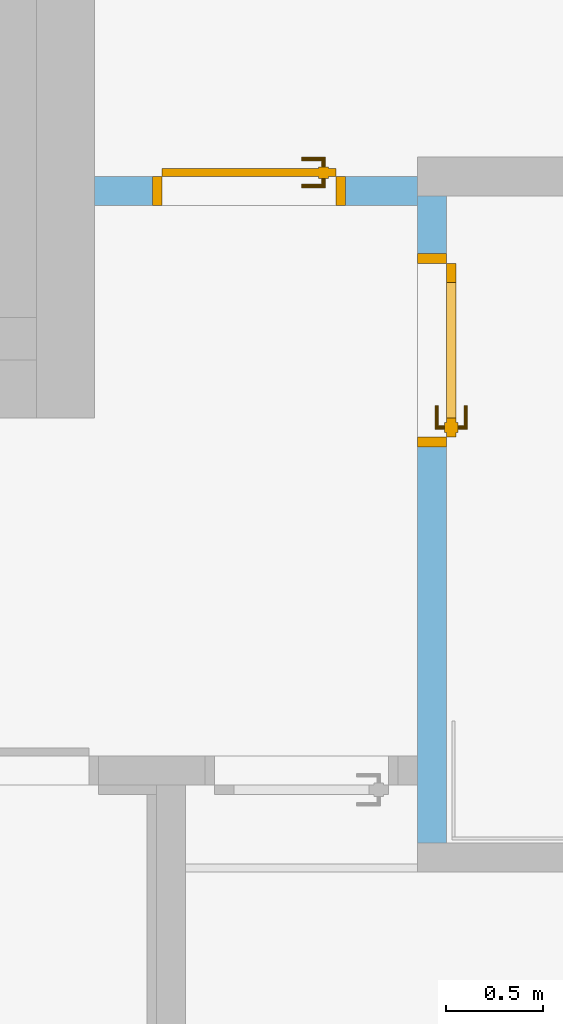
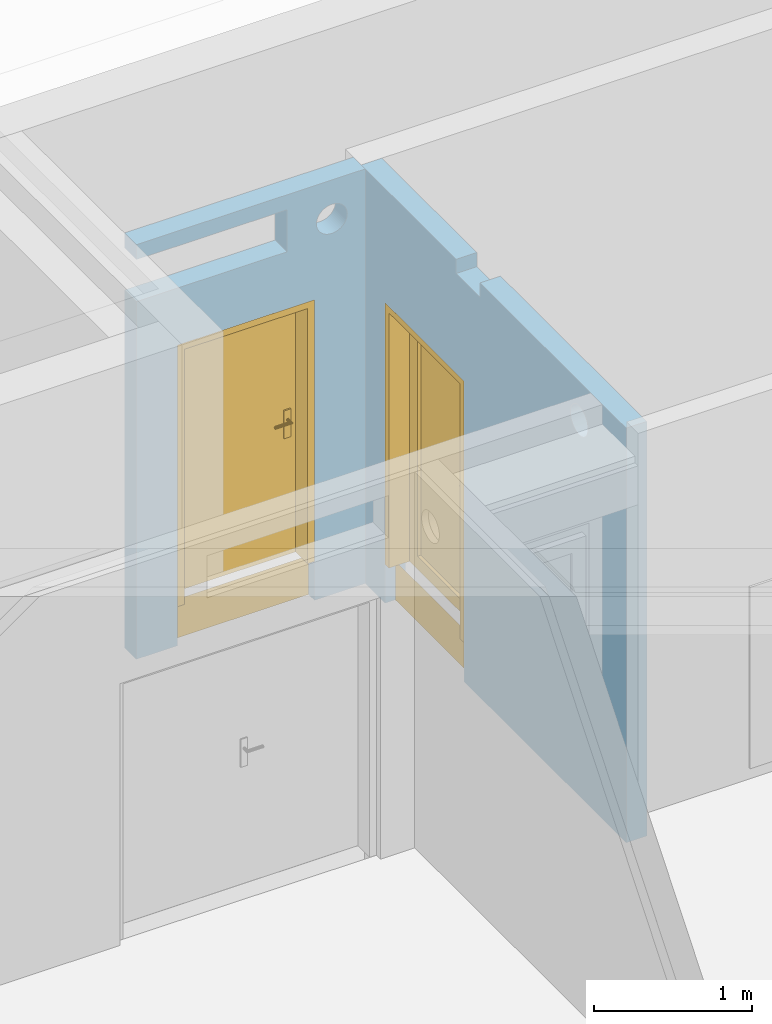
# One storey, part 73 of 84: 2 doors, 6 openings, plus 2 elements that do not belong to this part.
"""IFC4 building model written with IfcOpenShell, lengths in metres."""

from ifc_helpers import new_model, entity, si_unit, converted_unit, derived_unit, frame, frame_2d, origin, origin_with_axes, place, context, subcontext, project, spatial, polyline, rectangle, outline, extrude, closed_shell, open_shell, surface_model, source, transform, mapped, material, layer, layer_set, layer_usage, type_object, element, fill, save


model = new_model("IFC4")

# Units and contexts
model_context = context("Model", 3, precision=1e-05, world=origin())
body_context = subcontext(model_context, "Body", "Model", "MODEL_VIEW")
ifc_project = project(units=[si_unit("LENGTHUNIT", "METRE"), si_unit("AREAUNIT", "SQUARE_METRE"), si_unit("VOLUMEUNIT", "CUBIC_METRE"), si_unit("MASSUNIT", "GRAM", prefix="KILO"), converted_unit("PLANEANGLEUNIT", "DEGREE", entity("IfcPlaneAngleMeasure", 0.0174532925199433), si_unit("PLANEANGLEUNIT", "RADIAN"), dimensions=[0, 0, 0, 0, 0, 0, 0]), derived_unit("THERMALTRANSMITTANCEUNIT", [(si_unit("POWERUNIT", "WATT"), 1), (si_unit("THERMODYNAMICTEMPERATUREUNIT", "KELVIN"), -1), (si_unit("LENGTHUNIT", "METRE"), -2)]), derived_unit("VOLUMETRICFLOWRATEUNIT", [(si_unit("LENGTHUNIT", "METRE"), 3), (converted_unit("TIMEUNIT", "hour", entity("IfcTimeMeasure", 3600.0), si_unit("TIMEUNIT", "SECOND"), dimensions=[0, 0, 1, 0, 0, 0, 0]), -1), (si_unit("LENGTHUNIT", "METRE"), -1)])], contexts=[model_context])

# Site, building, storey
site_placement = place(None, origin())
site = spatial("IfcSite", under=ifc_project, at=site_placement, Name="3. ASŘ", CompositionType="ELEMENT")
building_placement = place(site_placement, origin())
building = spatial("IfcBuilding", under=site, at=building_placement, Name="Pavilon C", CompositionType="ELEMENT")
storey_placement = place(building_placement, frame((0.0, 0.0, -3.3)))
storey = spatial("IfcBuildingStorey", under=building, at=storey_placement, Name="Půdorys 1.PP", CompositionType="ELEMENT", Elevation=-3.3)

# Wall, openings, door
ifc_material_1 = material(Name="SDK - 1 KCE + DVOJITÉ OPLÁŠTĚNÍ")
ifc_layer_1 = layer(ifc_material_1, 0.15)
ifc_layer_set_1 = layer_set([ifc_layer_1])
ifc_layer_usage_1 = layer_usage(ifc_layer_set_1, "AXIS2", "POSITIVE", 0.0)
wall_1_placement = place(storey_placement, frame((58.5, 12.55, -0.3), z_axis=(0.0, 0.0, 1.0), x_axis=(0.0, 1.0, 0.0)))
wall_1 = element("IfcWall", 1, at=wall_1_placement, inside=storey, material=ifc_layer_usage_1, Name="SDK - 1 KCE + DVOJITÉ OPLÁŠTĚNÍ", context=body_context, shape_type="SweptSolid", body=[
    extrude(rectangle(XDim=3.35, YDim=0.15, at=frame_2d((1.675, 0.075), x_axis=(1.0, 0.0))), origin_with_axes(), (0.0, 0.0, 1.0), 3.2),
])
opening_1_placement = place(wall_1_placement, frame((2.05, 0.0, 0.0), z_axis=(0.0, 1.0, 0.0), x_axis=(0.0, 0.0, 1.0)))
opening_1 = element("IfcOpeningElement", 2, at=opening_1_placement, cuts=wall_1, Name="Dveřní otvor", ObjectType="Opening", context=body_context, shape_type="SweptSolid", body=[
    extrude(outline(polyline([(0.0, 1.0), (2.32, 1.0), (2.32, 0.0), (0.0, 0.0), (0.0, 1.0)])), origin_with_axes(), (0.0, 0.0, 1.0), 0.15),
])
opening_2_placement = place(wall_1_placement, frame((0.707526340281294, 0.15, 2.7875), z_axis=(0.0, -1.0, 0.0), x_axis=(0.0, 0.0, 1.0)))
element("IfcOpeningElement", 3, at=opening_2_placement, cuts=wall_1, Name="VZT", ObjectType="Opening", context=body_context, shape_type="SweptSolid", body=[
    extrude(outline(polyline([(0.112499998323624, 0.0), (0.100740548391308, 0.000616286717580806), (0.0891099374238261, 0.00245839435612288), (0.0777355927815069, 0.00550614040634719), (0.0667421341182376, 0.00972613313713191), (0.0562500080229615, 0.0150721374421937), (0.0463741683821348, 0.0214855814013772), (0.0372228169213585, 0.0288961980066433), (0.0288962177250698, 0.0372227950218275), (0.0214855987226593, 0.0463741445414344), (0.015072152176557, 0.0562499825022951), (0.00972614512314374, 0.0667421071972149), (0.00550614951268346, 0.0777355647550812), (0.00245840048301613, 0.0891099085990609), (0.00061628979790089, 0.100740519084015), (0.0, 0.112499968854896), (0.000616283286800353, 0.124259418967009), (0.00245838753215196, 0.135890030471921), (0.00550613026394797, 0.147264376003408), (0.00972611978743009, 0.158257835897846), (0.0150721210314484, 0.1687499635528), (0.0214855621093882, 0.178625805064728), (0.0288961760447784, 0.187777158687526), (0.0372227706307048, 0.19610376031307), (0.0463741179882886, 0.203514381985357), (0.0562499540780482, 0.2099278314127), (0.0667420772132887, 0.215273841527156), (0.0777355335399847, 0.219493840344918), (0.0891098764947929, 0.222541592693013), (0.100740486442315, 0.224383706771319), (0.112499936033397, 0.225), (0.124259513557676, 0.224383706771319), (0.135890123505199, 0.222541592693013), (0.147264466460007, 0.219493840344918), (0.158257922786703, 0.215273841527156), (0.168750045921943, 0.2099278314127), (0.178625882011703, 0.203514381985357), (0.187777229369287, 0.19610376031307), (0.196103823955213, 0.187777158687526), (0.203514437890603, 0.178625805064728), (0.209927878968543, 0.1687499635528), (0.215273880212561, 0.158257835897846), (0.219493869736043, 0.147264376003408), (0.222541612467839, 0.135890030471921), (0.224383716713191, 0.124259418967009), (0.224999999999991, 0.112499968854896), (0.22438371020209, 0.100740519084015), (0.222541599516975, 0.0891099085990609), (0.219493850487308, 0.0777355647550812), (0.215273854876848, 0.0667421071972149), (0.209927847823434, 0.0562499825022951), (0.203514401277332, 0.0463741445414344), (0.196103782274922, 0.0372227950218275), (0.187777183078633, 0.0288961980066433), (0.178625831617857, 0.0214855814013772), (0.16874999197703, 0.0150721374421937), (0.158257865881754, 0.00972613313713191), (0.147264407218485, 0.00550614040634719), (0.135890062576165, 0.00245839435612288), (0.124259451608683, 0.000616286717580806), (0.112499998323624, 0.0)])), origin_with_axes(), (0.0, 0.0, 1.0), 0.15),
])
opening_3_placement = place(wall_1_placement, frame((2.15000000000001, 0.15, 3.09), z_axis=(0.0, -1.0, 0.0), x_axis=(0.0, 0.0, 1.0)))
element("IfcOpeningElement", 4, at=opening_3_placement, cuts=wall_1, Name="ZTI", ObjectType="Opening", context=body_context, shape_type="SweptSolid", body=[
    extrude(outline(polyline([(0.0, 0.3), (0.11, 0.3), (0.11, 0.0), (0.0, 0.0), (0.0, 0.3)])), origin_with_axes(), (0.0, 0.0, 1.0), 0.15),
])
door_type_1 = type_object("IfcDoorType", Name="I.D039", OperationType="NOTDEFINED", ParameterTakesPrecedence=False, PredefinedType="DOOR")
shared_shape_1 = source(origin_with_axes(), body_context, "Body", "SurfaceModel", [
    surface_model("IfcShellBasedSurfaceModel", [(0.0, 0.0749999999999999, 0.0), (1.0, 0.0749999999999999, 0.0), (1.0, 0.075, 0.3), (0.0, 0.075, 0.3)], [open_shell([[[0, 1, 2, 3]]], orient=[[False]])]),
    surface_model("IfcShellBasedSurfaceModel", [(0.0, 0.15, 2.32), (0.0, 0.15, 0.301), (0.05, 0.15, 0.301), (0.05, 0.15, 2.32), (0.0, 0.0, 0.301), (0.0, 2.55795384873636e-16, 2.32), (0.05, 2.55795384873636e-16, 2.32), (0.05, 0.0, 0.301)], [closed_shell([[[0, 1, 2, 3]], [[4, 5, 6, 7]], [[1, 0, 5, 4]], [[2, 1, 4, 7]], [[3, 2, 7, 6]], [[0, 3, 6, 5]]], orient=[[False], [False], [False], [False], [False], [False]])]),
    surface_model("IfcShellBasedSurfaceModel", [(0.95, 0.15, 2.32), (0.95, 0.15, 0.301), (1.0, 0.15, 0.301), (1.0, 0.15, 2.32), (0.95, 0.0, 0.301), (0.95, 2.55795384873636e-16, 2.32), (1.0, 2.55795384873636e-16, 2.32), (1.0, 0.0, 0.301)], [closed_shell([[[0, 1, 2, 3]], [[4, 5, 6, 7]], [[1, 0, 5, 4]], [[2, 1, 4, 7]], [[3, 2, 7, 6]], [[0, 3, 6, 5]]], orient=[[False], [False], [False], [False], [False], [False]])]),
    surface_model("IfcShellBasedSurfaceModel", [(0.05, 0.15, 2.32), (0.05, 0.15, 2.27), (0.95, 0.15, 2.27), (0.95, 0.15, 2.32), (0.05, 2.27373675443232e-16, 2.27), (0.05, 2.27373675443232e-16, 2.32), (0.95, 2.27373675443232e-16, 2.32), (0.95, 2.27373675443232e-16, 2.27)], [closed_shell([[[0, 1, 2, 3]], [[4, 5, 6, 7]], [[1, 0, 5, 4]], [[2, 1, 4, 7]], [[3, 2, 7, 6]], [[0, 3, 6, 5]]], orient=[[False], [False], [False], [False], [False], [False]])]),
    surface_model("IfcShellBasedSurfaceModel", [(0.05, 0.2, 2.27), (0.05, 0.2, 0.301), (0.15, 0.2, 0.301), (0.15, 0.2, 2.27), (0.05, 0.15, 0.301), (0.05, 0.15, 2.27), (0.15, 0.15, 2.27), (0.15, 0.15, 0.301)], [closed_shell([[[0, 1, 2, 3]], [[4, 5, 6, 7]], [[1, 0, 5, 4]], [[2, 1, 4, 7]], [[3, 2, 7, 6]], [[0, 3, 6, 5]]], orient=[[False], [False], [False], [False], [False], [False]])]),
    surface_model("IfcShellBasedSurfaceModel", [(0.85, 0.2, 2.27), (0.85, 0.2, 0.301), (0.95, 0.2, 0.301), (0.95, 0.2, 2.27), (0.85, 0.15, 0.301), (0.85, 0.15, 2.27), (0.95, 0.15, 2.27), (0.95, 0.15, 0.301)], [closed_shell([[[0, 1, 2, 3]], [[4, 5, 6, 7]], [[1, 0, 5, 4]], [[2, 1, 4, 7]], [[3, 2, 7, 6]], [[0, 3, 6, 5]]], orient=[[False], [False], [False], [False], [False], [False]])]),
    surface_model("IfcShellBasedSurfaceModel", [(0.15, 0.2, 0.401), (0.15, 0.2, 0.301), (0.85, 0.2, 0.301), (0.85, 0.2, 0.401), (0.15, 0.15, 0.301), (0.15, 0.15, 0.401), (0.85, 0.15, 0.401), (0.85, 0.15, 0.301)], [closed_shell([[[0, 1, 2, 3]], [[4, 5, 6, 7]], [[1, 0, 5, 4]], [[2, 1, 4, 7]], [[3, 2, 7, 6]], [[0, 3, 6, 5]]], orient=[[False], [False], [False], [False], [False], [False]])]),
    surface_model("IfcShellBasedSurfaceModel", [(0.15, 0.2, 2.27), (0.15, 0.2, 2.17), (0.85, 0.2, 2.17), (0.85, 0.2, 2.27), (0.15, 0.15, 2.17), (0.15, 0.15, 2.27), (0.85, 0.15, 2.27), (0.85, 0.15, 2.17)], [closed_shell([[[0, 1, 2, 3]], [[4, 5, 6, 7]], [[1, 0, 5, 4]], [[2, 1, 4, 7]], [[3, 2, 7, 6]], [[0, 3, 6, 5]]], orient=[[False], [False], [False], [False], [False], [False]])]),
    surface_model("IfcShellBasedSurfaceModel", [(0.875, 0.15, 1.426), (0.875, 0.15, 1.211), (0.925, 0.15, 1.211), (0.925, 0.15, 1.426), (0.875, 0.14, 1.211), (0.875, 0.14, 1.426), (0.925, 0.14, 1.426), (0.925, 0.14, 1.211)], [closed_shell([[[0, 1, 2, 3]], [[4, 5, 6, 7]], [[1, 0, 5, 4]], [[2, 1, 4, 7]], [[3, 2, 7, 6]], [[0, 3, 6, 5]]], orient=[[False], [False], [False], [False], [False], [False]])]),
    surface_model("IfcShellBasedSurfaceModel", [(0.9, 0.14, 1.361), (0.895, 0.14, 1.35966025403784), (0.891339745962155, 0.14, 1.356), (0.89, 0.14, 1.351), (0.891339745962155, 0.14, 1.346), (0.895, 0.14, 1.34233974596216), (0.9, 0.14, 1.341), (0.905, 0.14, 1.34233974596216), (0.908660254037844, 0.14, 1.346), (0.91, 0.14, 1.351), (0.908660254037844, 0.14, 1.356), (0.905, 0.14, 1.35966025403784), (0.905, 0.0950000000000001, 1.35966025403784), (0.9, 0.1, 1.361), (0.908660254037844, 0.0913397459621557, 1.356), (0.91, 0.0900000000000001, 1.351), (0.908660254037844, 0.0913397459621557, 1.346), (0.905, 0.0950000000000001, 1.34233974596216), (0.9, 0.1, 1.341), (0.895, 0.105, 1.34233974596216), (0.891339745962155, 0.108660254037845, 1.346), (0.89, 0.11, 1.351), (0.891339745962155, 0.108660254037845, 1.356), (0.895, 0.105, 1.35966025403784), (0.785, 0.0950000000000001, 1.35966025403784), (0.785, 0.1, 1.361), (0.785, 0.0913397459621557, 1.356), (0.785, 0.0900000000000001, 1.351), (0.785, 0.0913397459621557, 1.346), (0.785, 0.0950000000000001, 1.34233974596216), (0.785, 0.1, 1.341), (0.785, 0.105, 1.34233974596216), (0.785, 0.108660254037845, 1.346), (0.785, 0.11, 1.351), (0.785, 0.108660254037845, 1.356), (0.785, 0.105, 1.35966025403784)], [open_shell([[[0, 1, 2, 3, 4, 5, 6, 7, 8, 9, 10, 11]], [[0, 11, 12, 13]], [[11, 10, 14, 12]], [[10, 9, 15, 14]], [[9, 8, 16, 15]], [[8, 7, 17, 16]], [[7, 6, 18, 17]], [[6, 5, 19, 18]], [[5, 4, 20, 19]], [[4, 3, 21, 20]], [[3, 2, 22, 21]], [[2, 1, 23, 22]], [[1, 0, 13, 23]], [[13, 12, 24, 25]], [[12, 14, 26, 24]], [[14, 15, 27, 26]], [[15, 16, 28, 27]], [[16, 17, 29, 28]], [[17, 18, 30, 29]], [[18, 19, 31, 30]], [[19, 20, 32, 31]], [[20, 21, 33, 32]], [[21, 22, 34, 33]], [[22, 23, 35, 34]], [[23, 13, 25, 35]]], orient=[[False], [False], [False], [False], [False], [False], [False], [False], [False], [False], [False], [False], [False], [False], [False], [False], [False], [False], [False], [False], [False], [False], [False], [False], [False]])]),
    surface_model("IfcShellBasedSurfaceModel", [(0.875, 0.2, 1.426), (0.925, 0.2, 1.426), (0.925, 0.2, 1.211), (0.875, 0.2, 1.211), (0.875, 0.21, 1.211), (0.925, 0.21, 1.211), (0.925, 0.21, 1.426), (0.875, 0.21, 1.426)], [closed_shell([[[0, 1, 2, 3]], [[4, 5, 6, 7]], [[3, 4, 7, 0]], [[2, 5, 4, 3]], [[1, 6, 5, 2]], [[0, 7, 6, 1]]], orient=[[False], [False], [False], [False], [False], [False]])]),
    surface_model("IfcShellBasedSurfaceModel", [(0.9, 0.21, 1.361), (0.905, 0.21, 1.35966025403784), (0.908660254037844, 0.21, 1.356), (0.91, 0.21, 1.351), (0.908660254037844, 0.21, 1.346), (0.905, 0.21, 1.34233974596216), (0.9, 0.21, 1.341), (0.895, 0.21, 1.34233974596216), (0.891339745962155, 0.21, 1.346), (0.89, 0.21, 1.351), (0.891339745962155, 0.21, 1.356), (0.895, 0.21, 1.35966025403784), (0.9, 0.25, 1.361), (0.905, 0.255, 1.35966025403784), (0.908660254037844, 0.258660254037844, 1.356), (0.91, 0.26, 1.351), (0.908660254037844, 0.258660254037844, 1.346), (0.905, 0.255, 1.34233974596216), (0.9, 0.25, 1.341), (0.895, 0.245, 1.34233974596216), (0.891339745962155, 0.241339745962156, 1.346), (0.89, 0.24, 1.351), (0.891339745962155, 0.241339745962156, 1.356), (0.895, 0.245, 1.35966025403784), (0.785, 0.25, 1.361), (0.785, 0.255, 1.35966025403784), (0.785, 0.258660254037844, 1.356), (0.785, 0.26, 1.351), (0.785, 0.258660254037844, 1.346), (0.785, 0.255, 1.34233974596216), (0.785, 0.25, 1.341), (0.785, 0.245, 1.34233974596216), (0.785, 0.241339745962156, 1.346), (0.785, 0.24, 1.351), (0.785, 0.241339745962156, 1.356), (0.785, 0.245, 1.35966025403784)], [open_shell([[[0, 1, 2, 3, 4, 5, 6, 7, 8, 9, 10, 11]], [[0, 12, 13, 1]], [[1, 13, 14, 2]], [[2, 14, 15, 3]], [[3, 15, 16, 4]], [[4, 16, 17, 5]], [[5, 17, 18, 6]], [[6, 18, 19, 7]], [[7, 19, 20, 8]], [[8, 20, 21, 9]], [[9, 21, 22, 10]], [[10, 22, 23, 11]], [[11, 23, 12, 0]], [[12, 24, 25, 13]], [[13, 25, 26, 14]], [[14, 26, 27, 15]], [[15, 27, 28, 16]], [[16, 28, 29, 17]], [[17, 29, 30, 18]], [[18, 30, 31, 19]], [[19, 31, 32, 20]], [[20, 32, 33, 21]], [[21, 33, 34, 22]], [[22, 34, 35, 23]], [[23, 35, 24, 12]]], orient=[[False], [False], [False], [False], [False], [False], [False], [False], [False], [False], [False], [False], [False], [False], [False], [False], [False], [False], [False], [False], [False], [False], [False], [False], [False]])]),
    surface_model("IfcShellBasedSurfaceModel", [(0.15, 0.175, 0.401), (0.85, 0.175, 0.401), (0.85, 0.175, 2.17), (0.15, 0.175, 2.17)], [open_shell([[[0, 1, 2, 3]]], orient=[[False]])]),
])
door_1_placement = place(opening_1_placement, frame((0.0, 0.999999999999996, 0.150000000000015), z_axis=(1.0, 0.0, 0.0), x_axis=(0.0, -1.0, 2.44929359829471e-16)))
door_1 = element("IfcDoor", 5, at=door_1_placement, inside=storey, type_object=door_type_1, Name="I.D039", OverallHeight=2.32, OverallWidth=1.0, context=body_context, shape_type="MappedRepresentation", body=[
    mapped(shared_shape_1, transform((0.0, 0.0, 0.0), x_axis=(1.0, 0.0, 0.0), y_axis=(0.0, 1.0, 0.0), z_axis=(0.0, 0.0, 1.0), scale=1.0)),
])
fill(opening_1, door_1)

ifc_material_2 = material(Name="SDK - 1 KCE + DVOJITÉ OPLÁŠTĚNÍ")
ifc_layer_2 = layer(ifc_material_2, 0.15)
ifc_layer_set_2 = layer_set([ifc_layer_2])
ifc_layer_usage_2 = layer_usage(ifc_layer_set_2, "AXIS2", "POSITIVE", 0.0)
wall_2_placement = place(storey_placement, frame((56.6788883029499, 15.85, -0.3)))
wall_2 = element("IfcWall", 6, at=wall_2_placement, inside=storey, material=ifc_layer_usage_2, Name="SDK - 1 KCE + DVOJITÉ OPLÁŠTĚNÍ", context=body_context, shape_type="SweptSolid", body=[
    extrude(rectangle(XDim=1.67111169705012, YDim=0.15, at=frame_2d((0.835555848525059, 0.075), x_axis=(1.0, 0.0))), origin_with_axes(), (0.0, 0.0, 1.0), 3.2),
])
opening_4_placement = place(wall_2_placement, frame((1.3, 0.15, 0.0), z_axis=(0.0, -1.0, 0.0), x_axis=(0.0, 0.0, 1.0)))
opening_4 = element("IfcOpeningElement", 7, at=opening_4_placement, cuts=wall_2, Name="Dveřní otvor", ObjectType="Opening", context=body_context, shape_type="SweptSolid", body=[
    extrude(outline(polyline([(0.0, 1.0), (2.32, 1.0), (2.32, 0.0), (0.0, 0.0), (0.0, 1.0)])), origin_with_axes(), (0.0, 0.0, 1.0), 0.15),
])
opening_5_placement = place(wall_2_placement, frame((1.53972447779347, 0.15, 2.7875), z_axis=(0.0, -1.0, 0.0), x_axis=(0.0, 0.0, 1.0)))
element("IfcOpeningElement", 8, at=opening_5_placement, cuts=wall_2, Name="VZT", ObjectType="Opening", context=body_context, shape_type="SweptSolid", body=[
    extrude(outline(polyline([(0.112499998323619, 0.225), (0.124259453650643, 0.2243837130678), (0.135890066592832, 0.222541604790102), (0.147264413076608, 0.219493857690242), (0.158257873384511, 0.21527386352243), (0.168750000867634, 0.209927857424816), (0.178625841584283, 0.203514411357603), (0.187777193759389, 0.196103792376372), (0.196103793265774, 0.187777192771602), (0.203514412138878, 0.178625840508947), (0.209927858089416, 0.168749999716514), (0.215273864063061, 0.158257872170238), (0.219493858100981, 0.147264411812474), (0.222541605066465, 0.13589006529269), (0.224383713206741, 0.124259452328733), (0.225, 0.112500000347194), (0.224383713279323, 0.100740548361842), (0.222541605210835, 0.0891099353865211), (0.219493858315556, 0.0777355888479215), (0.21527386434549, 0.0667421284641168), (0.209927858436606, 0.0562500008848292), (0.203514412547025, 0.0463741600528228), (0.196103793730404, 0.0372228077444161), (0.187777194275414, 0.0288962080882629), (0.178625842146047, 0.0214855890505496), (0.168750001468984, 0.0150721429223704), (0.158257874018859, 0.00972613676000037), (0.147264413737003, 0.00550614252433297), (0.135890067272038, 0.00245839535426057), (0.124259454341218, 0.000616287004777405), (0.11249999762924, 0.0), (0.100740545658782, 0.000616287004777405), (0.089109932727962, 0.00245839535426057), (0.0777355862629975, 0.00550614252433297), (0.0667421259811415, 0.00972613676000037), (0.0562499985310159, 0.0150721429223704), (0.0463741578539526, 0.0214855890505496), (0.0372228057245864, 0.0288962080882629), (0.0288962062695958, 0.0372228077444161), (0.0214855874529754, 0.0463741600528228), (0.015072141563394, 0.0562500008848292), (0.0097261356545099, 0.0667421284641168), (0.00550614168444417, 0.0777355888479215), (0.00245839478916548, 0.0891099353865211), (0.000616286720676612, 0.100740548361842), (0.0, 0.112500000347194), (0.000616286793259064, 0.124259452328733), (0.00245839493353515, 0.13589006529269), (0.00550614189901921, 0.147264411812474), (0.0097261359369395, 0.158257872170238), (0.0150721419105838, 0.168749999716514), (0.0214855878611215, 0.178625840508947), (0.0288962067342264, 0.187777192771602), (0.0372228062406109, 0.196103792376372), (0.0463741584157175, 0.203514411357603), (0.0562499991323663, 0.209927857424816), (0.0667421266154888, 0.21527386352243), (0.0777355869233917, 0.219493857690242), (0.0891099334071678, 0.222541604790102), (0.100740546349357, 0.2243837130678), (0.112499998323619, 0.225)])), origin_with_axes(), (0.0, 0.0, 1.0), 0.15),
])
opening_6_placement = place(wall_2_placement, frame((0.0, 0.0, 2.76), z_axis=(0.0, 1.0, 0.0), x_axis=(0.0, 0.0, 1.0)))
element("IfcOpeningElement", 9, at=opening_6_placement, cuts=wall_2, Name="VZT", ObjectType="Opening", context=body_context, shape_type="SweptSolid", body=[
    extrude(outline(polyline([(0.0, 1.1), (0.325, 1.1), (0.325, 0.0), (0.0, 0.0), (0.0, 1.1)])), origin_with_axes(), (0.0, 0.0, 1.0), 0.15),
])
door_type_2 = type_object("IfcDoorType", Name="I.D040", OperationType="NOTDEFINED", ParameterTakesPrecedence=False, PredefinedType="DOOR")
shared_shape_2 = source(origin_with_axes(), body_context, "Body", "SurfaceModel", [
    surface_model("IfcShellBasedSurfaceModel", [(0.0, 0.0749999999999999, 0.0), (1.0, 0.0749999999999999, 0.0), (1.0, 0.075, 0.3), (0.0, 0.075, 0.3)], [open_shell([[[0, 1, 2, 3]]], orient=[[False]])]),
    surface_model("IfcShellBasedSurfaceModel", [(0.0, 0.15, 2.32), (0.0, 0.15, 0.301), (0.05, 0.15, 0.301), (0.05, 0.15, 2.32), (0.0, 0.0, 0.301), (0.0, 2.55795384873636e-16, 2.32), (0.05, 2.55795384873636e-16, 2.32), (0.05, 0.0, 0.301)], [closed_shell([[[0, 1, 2, 3]], [[4, 5, 6, 7]], [[1, 0, 5, 4]], [[2, 1, 4, 7]], [[3, 2, 7, 6]], [[0, 3, 6, 5]]], orient=[[False], [False], [False], [False], [False], [False]])]),
    surface_model("IfcShellBasedSurfaceModel", [(0.95, 0.15, 2.32), (0.95, 0.15, 0.301), (1.0, 0.15, 0.301), (1.0, 0.15, 2.32), (0.95, 0.0, 0.301), (0.95, 2.55795384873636e-16, 2.32), (1.0, 2.55795384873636e-16, 2.32), (1.0, 0.0, 0.301)], [closed_shell([[[0, 1, 2, 3]], [[4, 5, 6, 7]], [[1, 0, 5, 4]], [[2, 1, 4, 7]], [[3, 2, 7, 6]], [[0, 3, 6, 5]]], orient=[[False], [False], [False], [False], [False], [False]])]),
    surface_model("IfcShellBasedSurfaceModel", [(0.05, 0.15, 2.32), (0.05, 0.15, 2.27), (0.95, 0.15, 2.27), (0.95, 0.15, 2.32), (0.05, 2.27373675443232e-16, 2.27), (0.05, 2.27373675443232e-16, 2.32), (0.95, 2.27373675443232e-16, 2.32), (0.95, 2.27373675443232e-16, 2.27)], [closed_shell([[[0, 1, 2, 3]], [[4, 5, 6, 7]], [[1, 0, 5, 4]], [[2, 1, 4, 7]], [[3, 2, 7, 6]], [[0, 3, 6, 5]]], orient=[[False], [False], [False], [False], [False], [False]])]),
    surface_model("IfcShellBasedSurfaceModel", [(0.05, 0.19, 2.27), (0.05, 0.19, 0.301), (0.95, 0.19, 0.301), (0.95, 0.19, 2.27), (0.05, 0.15, 0.301), (0.05, 0.15, 2.27), (0.95, 0.15, 2.27), (0.95, 0.15, 0.301)], [closed_shell([[[0, 1, 2, 3]], [[4, 5, 6, 7]], [[1, 0, 5, 4]], [[2, 1, 4, 7]], [[3, 2, 7, 6]], [[0, 3, 6, 5]]], orient=[[False], [False], [False], [False], [False], [False]])]),
    surface_model("IfcShellBasedSurfaceModel", [(0.86, 0.15, 1.426), (0.86, 0.15, 1.211), (0.91, 0.15, 1.211), (0.91, 0.15, 1.426), (0.86, 0.14, 1.211), (0.86, 0.14, 1.426), (0.91, 0.14, 1.426), (0.91, 0.14, 1.211)], [closed_shell([[[0, 1, 2, 3]], [[4, 5, 6, 7]], [[1, 0, 5, 4]], [[2, 1, 4, 7]], [[3, 2, 7, 6]], [[0, 3, 6, 5]]], orient=[[False], [False], [False], [False], [False], [False]])]),
    surface_model("IfcShellBasedSurfaceModel", [(0.885, 0.14, 1.361), (0.88, 0.14, 1.35966025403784), (0.876339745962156, 0.14, 1.356), (0.875, 0.14, 1.351), (0.876339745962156, 0.14, 1.346), (0.88, 0.14, 1.34233974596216), (0.885, 0.14, 1.341), (0.89, 0.14, 1.34233974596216), (0.893660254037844, 0.14, 1.346), (0.895, 0.14, 1.351), (0.893660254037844, 0.14, 1.356), (0.89, 0.14, 1.35966025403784), (0.89, 0.0950000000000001, 1.35966025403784), (0.885, 0.1, 1.361), (0.893660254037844, 0.0913397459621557, 1.356), (0.895, 0.0900000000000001, 1.351), (0.893660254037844, 0.0913397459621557, 1.346), (0.89, 0.0950000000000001, 1.34233974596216), (0.885, 0.1, 1.341), (0.88, 0.105, 1.34233974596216), (0.876339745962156, 0.108660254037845, 1.346), (0.875, 0.11, 1.351), (0.876339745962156, 0.108660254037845, 1.356), (0.88, 0.105, 1.35966025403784), (0.77, 0.0950000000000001, 1.35966025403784), (0.77, 0.1, 1.361), (0.77, 0.0913397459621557, 1.356), (0.77, 0.0900000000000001, 1.351), (0.77, 0.0913397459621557, 1.346), (0.77, 0.0950000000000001, 1.34233974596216), (0.77, 0.1, 1.341), (0.77, 0.105, 1.34233974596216), (0.77, 0.108660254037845, 1.346), (0.77, 0.11, 1.351), (0.77, 0.108660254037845, 1.356), (0.77, 0.105, 1.35966025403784)], [open_shell([[[0, 1, 2, 3, 4, 5, 6, 7, 8, 9, 10, 11]], [[0, 11, 12, 13]], [[11, 10, 14, 12]], [[10, 9, 15, 14]], [[9, 8, 16, 15]], [[8, 7, 17, 16]], [[7, 6, 18, 17]], [[6, 5, 19, 18]], [[5, 4, 20, 19]], [[4, 3, 21, 20]], [[3, 2, 22, 21]], [[2, 1, 23, 22]], [[1, 0, 13, 23]], [[13, 12, 24, 25]], [[12, 14, 26, 24]], [[14, 15, 27, 26]], [[15, 16, 28, 27]], [[16, 17, 29, 28]], [[17, 18, 30, 29]], [[18, 19, 31, 30]], [[19, 20, 32, 31]], [[20, 21, 33, 32]], [[21, 22, 34, 33]], [[22, 23, 35, 34]], [[23, 13, 25, 35]]], orient=[[False], [False], [False], [False], [False], [False], [False], [False], [False], [False], [False], [False], [False], [False], [False], [False], [False], [False], [False], [False], [False], [False], [False], [False], [False]])]),
    surface_model("IfcShellBasedSurfaceModel", [(0.86, 0.19, 1.426), (0.91, 0.19, 1.426), (0.91, 0.19, 1.211), (0.86, 0.19, 1.211), (0.86, 0.2, 1.211), (0.91, 0.2, 1.211), (0.91, 0.2, 1.426), (0.86, 0.2, 1.426)], [closed_shell([[[0, 1, 2, 3]], [[4, 5, 6, 7]], [[3, 4, 7, 0]], [[2, 5, 4, 3]], [[1, 6, 5, 2]], [[0, 7, 6, 1]]], orient=[[False], [False], [False], [False], [False], [False]])]),
    surface_model("IfcShellBasedSurfaceModel", [(0.885, 0.2, 1.361), (0.89, 0.2, 1.35966025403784), (0.893660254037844, 0.2, 1.356), (0.895, 0.2, 1.351), (0.893660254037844, 0.2, 1.346), (0.89, 0.2, 1.34233974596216), (0.885, 0.2, 1.341), (0.88, 0.2, 1.34233974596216), (0.876339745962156, 0.2, 1.346), (0.875, 0.2, 1.351), (0.876339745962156, 0.2, 1.356), (0.88, 0.2, 1.35966025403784), (0.885, 0.24, 1.361), (0.89, 0.245, 1.35966025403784), (0.893660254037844, 0.248660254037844, 1.356), (0.895, 0.25, 1.351), (0.893660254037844, 0.248660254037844, 1.346), (0.89, 0.245, 1.34233974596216), (0.885, 0.24, 1.341), (0.88, 0.235, 1.34233974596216), (0.876339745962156, 0.231339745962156, 1.346), (0.875, 0.23, 1.351), (0.876339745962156, 0.231339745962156, 1.356), (0.88, 0.235, 1.35966025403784), (0.77, 0.24, 1.361), (0.77, 0.245, 1.35966025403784), (0.77, 0.248660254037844, 1.356), (0.77, 0.25, 1.351), (0.77, 0.248660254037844, 1.346), (0.77, 0.245, 1.34233974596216), (0.77, 0.24, 1.341), (0.77, 0.235, 1.34233974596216), (0.77, 0.231339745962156, 1.346), (0.77, 0.23, 1.351), (0.77, 0.231339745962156, 1.356), (0.77, 0.235, 1.35966025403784)], [open_shell([[[0, 1, 2, 3, 4, 5, 6, 7, 8, 9, 10, 11]], [[0, 12, 13, 1]], [[1, 13, 14, 2]], [[2, 14, 15, 3]], [[3, 15, 16, 4]], [[4, 16, 17, 5]], [[5, 17, 18, 6]], [[6, 18, 19, 7]], [[7, 19, 20, 8]], [[8, 20, 21, 9]], [[9, 21, 22, 10]], [[10, 22, 23, 11]], [[11, 23, 12, 0]], [[12, 24, 25, 13]], [[13, 25, 26, 14]], [[14, 26, 27, 15]], [[15, 27, 28, 16]], [[16, 28, 29, 17]], [[17, 29, 30, 18]], [[18, 30, 31, 19]], [[19, 31, 32, 20]], [[20, 32, 33, 21]], [[21, 33, 34, 22]], [[22, 34, 35, 23]], [[23, 35, 24, 12]]], orient=[[False], [False], [False], [False], [False], [False], [False], [False], [False], [False], [False], [False], [False], [False], [False], [False], [False], [False], [False], [False], [False], [False], [False], [False], [False]])]),
])
door_2_placement = place(opening_4_placement, frame((0.0, 1.0, 0.15), z_axis=(1.0, 0.0, 0.0), x_axis=(0.0, -1.0, 2.44929359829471e-16)))
door_2 = element("IfcDoor", 10, at=door_2_placement, inside=storey, type_object=door_type_2, Name="I.D040", OverallHeight=2.32, OverallWidth=1.0, context=body_context, shape_type="MappedRepresentation", body=[
    mapped(shared_shape_2, transform((0.0, 0.0, 0.0), x_axis=(1.0, 0.0, 0.0), y_axis=(0.0, 1.0, 0.0), z_axis=(0.0, 0.0, 1.0), scale=1.0)),
])
fill(opening_4, door_2)

save(model, "model.ifc")
